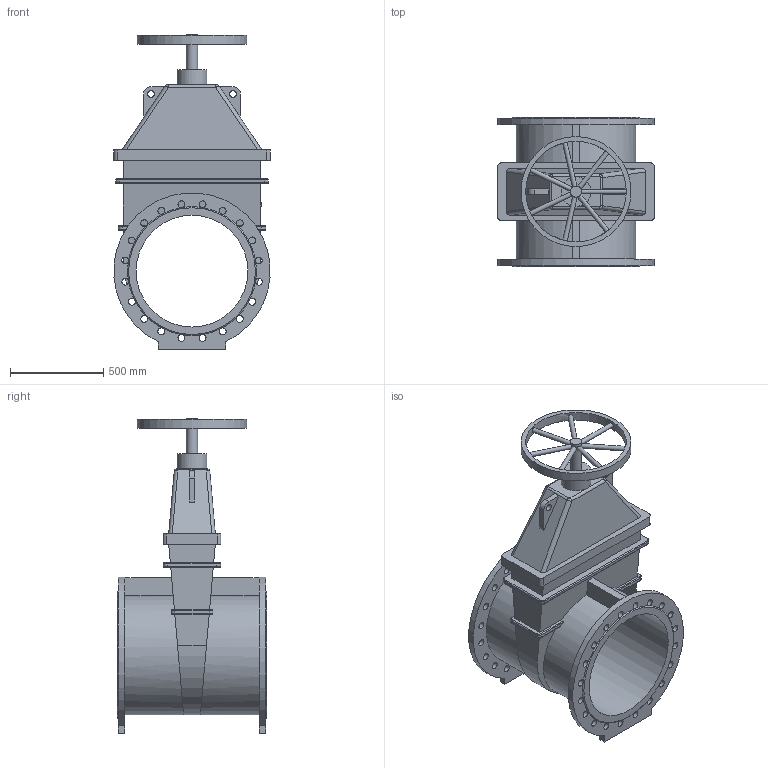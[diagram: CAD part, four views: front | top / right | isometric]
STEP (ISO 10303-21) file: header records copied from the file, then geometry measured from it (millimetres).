
FILE_DESCRIPTION(('STEP AP203'), '1');
FILE_NAME('Çàäâèæêà 47GV DN600 PN16_L800 ñ ìàõîâèêîì', '', ('UNSPECIFIED'), ('UNSPECIFIED'), 'ASCON STEP Converter 1.6', 'ASCON Math Kernel', '');
FILE_SCHEMA(('CONFIG_CONTROL_DESIGN'));
Length unit declared in the file: millimetre
Bounding box: 840 x 800 x 1689 mm (x, y, z)
Volume: 173459059.7 mm3; surface area: 6562614.9 mm2
Topology: 1 solids, 1 shells, 219 faces, 677 edges, 436 vertices
Faces by surface type: cylinder 108, plane 85, bspline 16, torus 8, cone 2
Full cylindrical faces by diameter (mm): 25 x7, 36 x2, 37 x40, 60 x1, 160 x1, 540 x1, 590 x1, 600 x1
Entity records: 15224 total; most frequent: CARTESIAN_POINT 7489, ORIENTED_EDGE 1240, DIRECTION 1202, EDGE_CURVE 620, AXIS2_PLACEMENT_3D 482, VERTEX_POINT 436, EDGE_LOOP 352, FACE_BOUND 283
